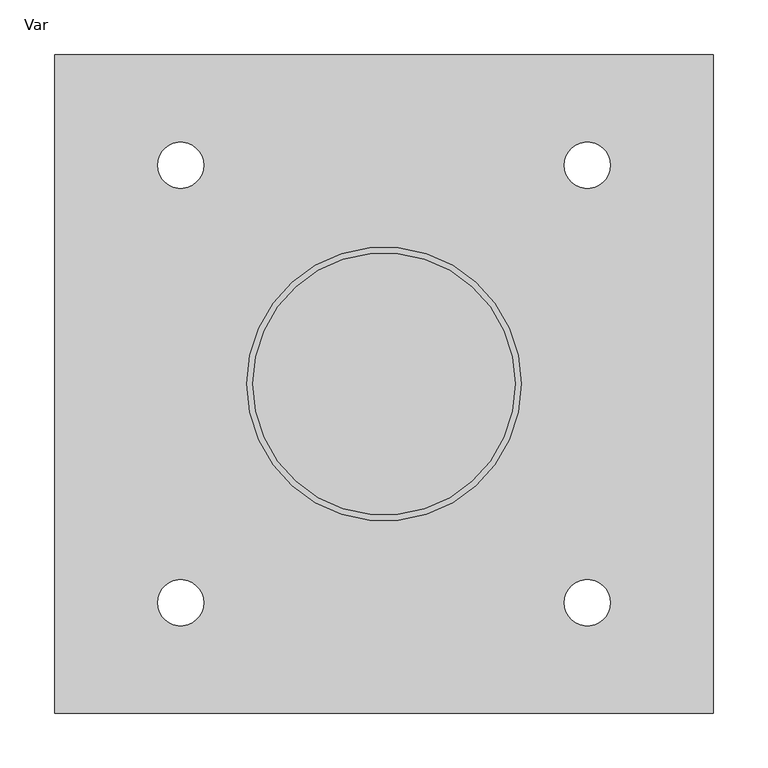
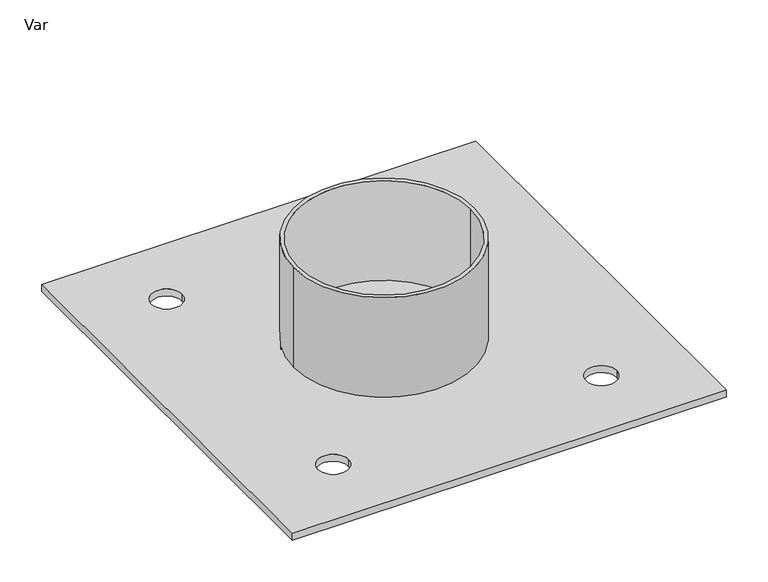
"""IFC4 building model written with IfcOpenShell, lengths in millimetres: pipe fitting geometry, AmancoWavin_Unionesdetubería_AquacellNG_AdaptadorSuperior : Var."""

from ifc_helpers import new_model, si_unit, point, frame_2d, origin, origin_with_axes, origin_2d, place, context, project, spatial, polyline, circle_curve, trimmed, segment, composite_curve, outline, extrude, source, transform, mapped, element, save


def var_741f9a40(model_context):
    return source(origin(), model_context, "Body", "SweptSolid", [
        extrude(outline(composite_curve([segment(trimmed(circle_curve(origin_2d(), 125.0), [point((-125.0, 0.0))], [point((125.0, 0.0))], False, "CARTESIAN"), True, "CONTINUOUS"), segment(trimmed(circle_curve(origin_2d(), 125.0), [point((125.0, 0.0))], [point((-125.0, 0.0))], False, "CARTESIAN"), True, "CONTINUOUS")], self_intersect=False), holes=[composite_curve([segment(trimmed(circle_curve(origin_2d(), 119.5), [point((-119.5, 0.0))], [point((119.5, 0.0))], True, "CARTESIAN"), True, "CONTINUOUS"), segment(trimmed(circle_curve(origin_2d(), 119.5), [point((119.5, 0.0))], [point((-119.5, 0.0))], True, "CARTESIAN"), True, "CONTINUOUS")], self_intersect=False)]), origin_with_axes(), (0.0, 0.0, 1.0), 155.5),
        extrude(outline(polyline([(-300.0, -300.0), (-300.0, 300.0), (300.0, 300.0), (300.0, -300.0), (-300.0, -300.0)]), holes=[composite_curve([segment(trimmed(circle_curve(frame_2d((-185.4121869, 199.3986999)), 21.0), [point((-206.4121869, 199.3986999))], [point((-164.4121869, 199.3986999))], True, "CARTESIAN"), True, "CONTINUOUS"), segment(trimmed(circle_curve(frame_2d((-185.4121869, 199.3986999)), 21.0), [point((-164.4121869, 199.3986999))], [point((-206.4121869, 199.3986999))], True, "CARTESIAN"), True, "CONTINUOUS")], self_intersect=False), composite_curve([segment(trimmed(circle_curve(frame_2d((185.4121869, 199.3986999)), 21.0), [point((164.4121869, 199.3986999))], [point((206.4121869, 199.3986999))], True, "CARTESIAN"), True, "CONTINUOUS"), segment(trimmed(circle_curve(frame_2d((185.4121869, 199.3986999)), 21.0), [point((206.4121869, 199.3986999))], [point((164.4121869, 199.3986999))], True, "CARTESIAN"), True, "CONTINUOUS")], self_intersect=False), composite_curve([segment(trimmed(circle_curve(frame_2d((185.4121869, -199.3986999)), 21.0), [point((164.4121869, -199.3986999))], [point((206.4121869, -199.3986999))], True, "CARTESIAN"), True, "CONTINUOUS"), segment(trimmed(circle_curve(frame_2d((185.4121869, -199.3986999)), 21.0), [point((206.4121869, -199.3986999))], [point((164.4121869, -199.3986999))], True, "CARTESIAN"), True, "CONTINUOUS")], self_intersect=False), composite_curve([segment(trimmed(circle_curve(frame_2d((-185.4121869, -199.3986999)), 21.0), [point((-206.4121869, -199.3986999))], [point((-164.4121869, -199.3986999))], True, "CARTESIAN"), True, "CONTINUOUS"), segment(trimmed(circle_curve(frame_2d((-185.4121869, -199.3986999)), 21.0), [point((-164.4121869, -199.3986999))], [point((-206.4121869, -199.3986999))], True, "CARTESIAN"), True, "CONTINUOUS")], self_intersect=False)]), origin_with_axes(), (0.0, 0.0, 1.0), 10.0),
    ])


if __name__ == "__main__":
    model = new_model("IFC4")
    model_context = context("Model", 3, world=origin())
    ifc_project = project(units=[si_unit("LENGTHUNIT", "METRE", prefix="MILLI")], contexts=[model_context])
    site = spatial("IfcSite", under=ifc_project)
    building = spatial("IfcBuilding", under=site)
    placement = place(None, origin())
    var_shape = var_741f9a40(model_context)
    element("IfcPipeFitting", 1, ObjectType="AmancoWavin_Unionesdetubería_AquacellNG_AdaptadorSuperior : Var", at=placement, inside=building, context=model_context, shape_type="MappedRepresentation", body=[
        mapped(var_shape, transform((0.0, 0.0, 0.0), x_axis=(1.0, 0.0, 0.0), y_axis=(0.0, 1.0, 0.0), z_axis=(0.0, 0.0, 1.0))),
    ])
    save(model, "model.ifc")
